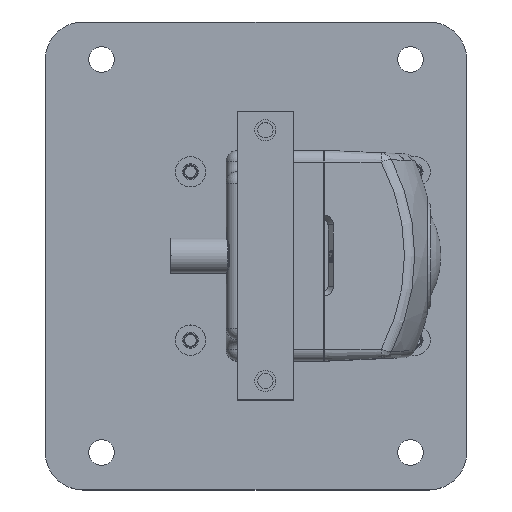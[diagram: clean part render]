
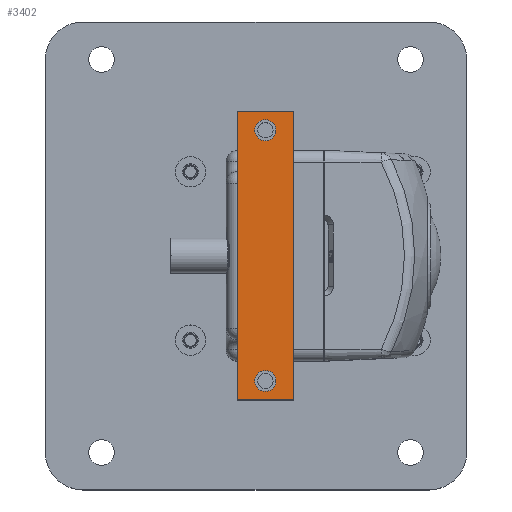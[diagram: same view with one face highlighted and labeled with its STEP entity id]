
A CAD part, top view. The second image highlights one B-rep face of the part: STEP entity #3402.
In plain terms, the highlighted planar face has unit normal (0, 0, 1).
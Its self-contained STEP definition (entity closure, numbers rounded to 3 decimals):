
#3213 = VERTEX_POINT('',#3214);
#3214 = CARTESIAN_POINT('',(-14.,-30.8,57.2));
#3221 = PLANE('',#3222);
#3222 = AXIS2_PLACEMENT_3D('',#3223,#3224,#3225);
#3223 = CARTESIAN_POINT('',(-14.,-30.8,53.2));
#3224 = DIRECTION('',(1.,0.,0.));
#3225 = DIRECTION('',(0.,0.,1.));
#3233 = PLANE('',#3234);
#3234 = AXIS2_PLACEMENT_3D('',#3235,#3236,#3237);
#3235 = CARTESIAN_POINT('',(-14.,-30.8,53.2));
#3236 = DIRECTION('',(0.,1.,0.));
#3237 = DIRECTION('',(0.,0.,1.));
#3274 = VERTEX_POINT('',#3275);
#3275 = CARTESIAN_POINT('',(-14.,30.8,57.2));
#3289 = PLANE('',#3290);
#3290 = AXIS2_PLACEMENT_3D('',#3291,#3292,#3293);
#3291 = CARTESIAN_POINT('',(-14.,30.8,53.2));
#3292 = DIRECTION('',(0.,1.,0.));
#3293 = DIRECTION('',(0.,0.,1.));
#3301 = EDGE_CURVE('',#3213,#3274,#3302,.T.);
#3302 = SURFACE_CURVE('',#3303,(#3307,#3314),.PCURVE_S1.);
#3303 = LINE('',#3304,#3305);
#3304 = CARTESIAN_POINT('',(-14.,-30.8,57.2));
#3305 = VECTOR('',#3306,1.);
#3306 = DIRECTION('',(0.,1.,0.));
#3307 = PCURVE('',#3221,#3308);
#3308 = DEFINITIONAL_REPRESENTATION('',(#3309),#3313);
#3309 = LINE('',#3310,#3311);
#3310 = CARTESIAN_POINT('',(4.,0.));
#3311 = VECTOR('',#3312,1.);
#3312 = DIRECTION('',(0.,-1.));
#3313 = ( GEOMETRIC_REPRESENTATION_CONTEXT(2) 
PARAMETRIC_REPRESENTATION_CONTEXT() REPRESENTATION_CONTEXT('2D SPACE',''
  ) );
#3314 = PCURVE('',#3315,#3320);
#3315 = PLANE('',#3316);
#3316 = AXIS2_PLACEMENT_3D('',#3317,#3318,#3319);
#3317 = CARTESIAN_POINT('',(-14.,-30.8,57.2));
#3318 = DIRECTION('',(0.,0.,1.));
#3319 = DIRECTION('',(1.,0.,0.));
#3320 = DEFINITIONAL_REPRESENTATION('',(#3321),#3325);
#3321 = LINE('',#3322,#3323);
#3322 = CARTESIAN_POINT('',(0.,0.));
#3323 = VECTOR('',#3324,1.);
#3324 = DIRECTION('',(0.,1.));
#3325 = ( GEOMETRIC_REPRESENTATION_CONTEXT(2) 
PARAMETRIC_REPRESENTATION_CONTEXT() REPRESENTATION_CONTEXT('2D SPACE',''
  ) );
#3354 = EDGE_CURVE('',#3213,#3355,#3357,.T.);
#3355 = VERTEX_POINT('',#3356);
#3356 = CARTESIAN_POINT('',(-2.,-30.8,57.2));
#3357 = SURFACE_CURVE('',#3358,(#3362,#3369),.PCURVE_S1.);
#3358 = LINE('',#3359,#3360);
#3359 = CARTESIAN_POINT('',(-14.,-30.8,57.2));
#3360 = VECTOR('',#3361,1.);
#3361 = DIRECTION('',(1.,0.,0.));
#3362 = PCURVE('',#3233,#3363);
#3363 = DEFINITIONAL_REPRESENTATION('',(#3364),#3368);
#3364 = LINE('',#3365,#3366);
#3365 = CARTESIAN_POINT('',(4.,0.));
#3366 = VECTOR('',#3367,1.);
#3367 = DIRECTION('',(0.,1.));
#3368 = ( GEOMETRIC_REPRESENTATION_CONTEXT(2) 
PARAMETRIC_REPRESENTATION_CONTEXT() REPRESENTATION_CONTEXT('2D SPACE',''
  ) );
#3369 = PCURVE('',#3315,#3370);
#3370 = DEFINITIONAL_REPRESENTATION('',(#3371),#3375);
#3371 = LINE('',#3372,#3373);
#3372 = CARTESIAN_POINT('',(0.,0.));
#3373 = VECTOR('',#3374,1.);
#3374 = DIRECTION('',(1.,0.));
#3375 = ( GEOMETRIC_REPRESENTATION_CONTEXT(2) 
PARAMETRIC_REPRESENTATION_CONTEXT() REPRESENTATION_CONTEXT('2D SPACE',''
  ) );
#3391 = PLANE('',#3392);
#3392 = AXIS2_PLACEMENT_3D('',#3393,#3394,#3395);
#3393 = CARTESIAN_POINT('',(-2.,-30.8,53.2));
#3394 = DIRECTION('',(1.,0.,0.));
#3395 = DIRECTION('',(0.,0.,1.));
#3402 = ADVANCED_FACE('',(#3403,#3451,#3482),#3315,.T.);
#3403 = FACE_BOUND('',#3404,.T.);
#3404 = EDGE_LOOP('',(#3405,#3406,#3407,#3430));
#3405 = ORIENTED_EDGE('',*,*,#3301,.F.);
#3406 = ORIENTED_EDGE('',*,*,#3354,.T.);
#3407 = ORIENTED_EDGE('',*,*,#3408,.T.);
#3408 = EDGE_CURVE('',#3355,#3409,#3411,.T.);
#3409 = VERTEX_POINT('',#3410);
#3410 = CARTESIAN_POINT('',(-2.,30.8,57.2));
#3411 = SURFACE_CURVE('',#3412,(#3416,#3423),.PCURVE_S1.);
#3412 = LINE('',#3413,#3414);
#3413 = CARTESIAN_POINT('',(-2.,-30.8,57.2));
#3414 = VECTOR('',#3415,1.);
#3415 = DIRECTION('',(0.,1.,0.));
#3416 = PCURVE('',#3315,#3417);
#3417 = DEFINITIONAL_REPRESENTATION('',(#3418),#3422);
#3418 = LINE('',#3419,#3420);
#3419 = CARTESIAN_POINT('',(12.,0.));
#3420 = VECTOR('',#3421,1.);
#3421 = DIRECTION('',(0.,1.));
#3422 = ( GEOMETRIC_REPRESENTATION_CONTEXT(2) 
PARAMETRIC_REPRESENTATION_CONTEXT() REPRESENTATION_CONTEXT('2D SPACE',''
  ) );
#3423 = PCURVE('',#3391,#3424);
#3424 = DEFINITIONAL_REPRESENTATION('',(#3425),#3429);
#3425 = LINE('',#3426,#3427);
#3426 = CARTESIAN_POINT('',(4.,0.));
#3427 = VECTOR('',#3428,1.);
#3428 = DIRECTION('',(0.,-1.));
#3429 = ( GEOMETRIC_REPRESENTATION_CONTEXT(2) 
PARAMETRIC_REPRESENTATION_CONTEXT() REPRESENTATION_CONTEXT('2D SPACE',''
  ) );
#3430 = ORIENTED_EDGE('',*,*,#3431,.F.);
#3431 = EDGE_CURVE('',#3274,#3409,#3432,.T.);
#3432 = SURFACE_CURVE('',#3433,(#3437,#3444),.PCURVE_S1.);
#3433 = LINE('',#3434,#3435);
#3434 = CARTESIAN_POINT('',(-14.,30.8,57.2));
#3435 = VECTOR('',#3436,1.);
#3436 = DIRECTION('',(1.,0.,0.));
#3437 = PCURVE('',#3315,#3438);
#3438 = DEFINITIONAL_REPRESENTATION('',(#3439),#3443);
#3439 = LINE('',#3440,#3441);
#3440 = CARTESIAN_POINT('',(0.,61.6));
#3441 = VECTOR('',#3442,1.);
#3442 = DIRECTION('',(1.,0.));
#3443 = ( GEOMETRIC_REPRESENTATION_CONTEXT(2) 
PARAMETRIC_REPRESENTATION_CONTEXT() REPRESENTATION_CONTEXT('2D SPACE',''
  ) );
#3444 = PCURVE('',#3289,#3445);
#3445 = DEFINITIONAL_REPRESENTATION('',(#3446),#3450);
#3446 = LINE('',#3447,#3448);
#3447 = CARTESIAN_POINT('',(4.,0.));
#3448 = VECTOR('',#3449,1.);
#3449 = DIRECTION('',(0.,1.));
#3450 = ( GEOMETRIC_REPRESENTATION_CONTEXT(2) 
PARAMETRIC_REPRESENTATION_CONTEXT() REPRESENTATION_CONTEXT('2D SPACE',''
  ) );
#3451 = FACE_BOUND('',#3452,.T.);
#3452 = EDGE_LOOP('',(#3453));
#3453 = ORIENTED_EDGE('',*,*,#3454,.F.);
#3454 = EDGE_CURVE('',#3455,#3455,#3457,.T.);
#3455 = VERTEX_POINT('',#3456);
#3456 = CARTESIAN_POINT('',(-5.75,-26.8,57.2));
#3457 = SURFACE_CURVE('',#3458,(#3463,#3470),.PCURVE_S1.);
#3458 = CIRCLE('',#3459,2.25);
#3459 = AXIS2_PLACEMENT_3D('',#3460,#3461,#3462);
#3460 = CARTESIAN_POINT('',(-8.,-26.8,57.2));
#3461 = DIRECTION('',(0.,0.,1.));
#3462 = DIRECTION('',(1.,0.,0.));
#3463 = PCURVE('',#3315,#3464);
#3464 = DEFINITIONAL_REPRESENTATION('',(#3465),#3469);
#3465 = CIRCLE('',#3466,2.25);
#3466 = AXIS2_PLACEMENT_2D('',#3467,#3468);
#3467 = CARTESIAN_POINT('',(6.,4.));
#3468 = DIRECTION('',(1.,0.));
#3469 = ( GEOMETRIC_REPRESENTATION_CONTEXT(2) 
PARAMETRIC_REPRESENTATION_CONTEXT() REPRESENTATION_CONTEXT('2D SPACE',''
  ) );
#3470 = PCURVE('',#3471,#3476);
#3471 = CYLINDRICAL_SURFACE('',#3472,2.25);
#3472 = AXIS2_PLACEMENT_3D('',#3473,#3474,#3475);
#3473 = CARTESIAN_POINT('',(-8.,-26.8,53.2));
#3474 = DIRECTION('',(-0.,-0.,-1.));
#3475 = DIRECTION('',(1.,0.,0.));
#3476 = DEFINITIONAL_REPRESENTATION('',(#3477),#3481);
#3477 = LINE('',#3478,#3479);
#3478 = CARTESIAN_POINT('',(-0.,-4.));
#3479 = VECTOR('',#3480,1.);
#3480 = DIRECTION('',(-1.,0.));
#3481 = ( GEOMETRIC_REPRESENTATION_CONTEXT(2) 
PARAMETRIC_REPRESENTATION_CONTEXT() REPRESENTATION_CONTEXT('2D SPACE',''
  ) );
#3482 = FACE_BOUND('',#3483,.T.);
#3483 = EDGE_LOOP('',(#3484));
#3484 = ORIENTED_EDGE('',*,*,#3485,.F.);
#3485 = EDGE_CURVE('',#3486,#3486,#3488,.T.);
#3486 = VERTEX_POINT('',#3487);
#3487 = CARTESIAN_POINT('',(-5.75,26.8,57.2));
#3488 = SURFACE_CURVE('',#3489,(#3494,#3501),.PCURVE_S1.);
#3489 = CIRCLE('',#3490,2.25);
#3490 = AXIS2_PLACEMENT_3D('',#3491,#3492,#3493);
#3491 = CARTESIAN_POINT('',(-8.,26.8,57.2));
#3492 = DIRECTION('',(0.,0.,1.));
#3493 = DIRECTION('',(1.,0.,0.));
#3494 = PCURVE('',#3315,#3495);
#3495 = DEFINITIONAL_REPRESENTATION('',(#3496),#3500);
#3496 = CIRCLE('',#3497,2.25);
#3497 = AXIS2_PLACEMENT_2D('',#3498,#3499);
#3498 = CARTESIAN_POINT('',(6.,57.6));
#3499 = DIRECTION('',(1.,0.));
#3500 = ( GEOMETRIC_REPRESENTATION_CONTEXT(2) 
PARAMETRIC_REPRESENTATION_CONTEXT() REPRESENTATION_CONTEXT('2D SPACE',''
  ) );
#3501 = PCURVE('',#3502,#3507);
#3502 = CYLINDRICAL_SURFACE('',#3503,2.25);
#3503 = AXIS2_PLACEMENT_3D('',#3504,#3505,#3506);
#3504 = CARTESIAN_POINT('',(-8.,26.8,53.2));
#3505 = DIRECTION('',(-0.,-0.,-1.));
#3506 = DIRECTION('',(1.,0.,0.));
#3507 = DEFINITIONAL_REPRESENTATION('',(#3508),#3512);
#3508 = LINE('',#3509,#3510);
#3509 = CARTESIAN_POINT('',(-0.,-4.));
#3510 = VECTOR('',#3511,1.);
#3511 = DIRECTION('',(-1.,0.));
#3512 = ( GEOMETRIC_REPRESENTATION_CONTEXT(2) 
PARAMETRIC_REPRESENTATION_CONTEXT() REPRESENTATION_CONTEXT('2D SPACE',''
  ) );
